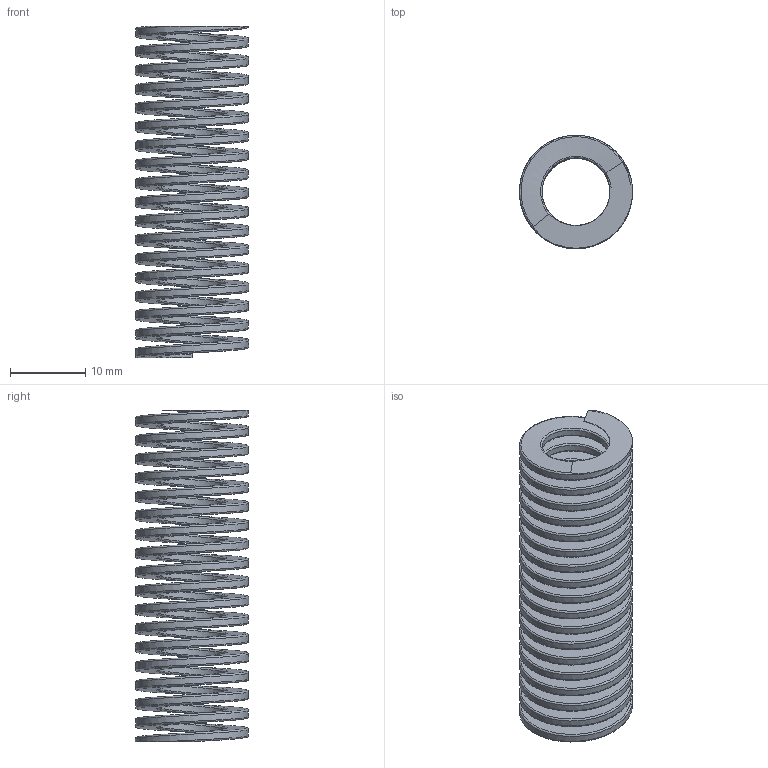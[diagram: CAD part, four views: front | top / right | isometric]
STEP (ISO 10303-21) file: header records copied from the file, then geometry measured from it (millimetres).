
FILE_DESCRIPTION(('CATIA V5 STEP Exchange','CAx-IF Rec.Pracs.--- Model Styling and Organization---1.5--- 2016-08-15','CAx-IF Rec.Pracs.---Supplemental Geometry---1.0---2011-11-01','CAx-IF Rec.Pracs.--- Composite Materials ---1.1---2010-07-15','CAx-IF Rec.Pracs.---External References---2.1---2005-01-19'),'2;1');
FILE_NAME('E:\WAT\Sprezarka\121_00_00_Tlocznik1\Tlocznik1_KPL\Tlocznik1_stp\241.14.16.064_skok20.stp','2023-08-01T08:49:43+00:00',('none'),('none'),'CATIA Version 5-6 Release 2022 SP3','CATIA V5 STEP AP214 v2','none');
FILE_SCHEMA(('AUTOMOTIVE_DESIGN { 1 0 10303 214 1 1 1 1 }'));
Length unit declared in the file: millimetre
Products named in the file (1): 241.14.16.064_skok20
Bounding box: 15 x 15 x 44 mm (x, y, z)
Volume: 2354.5 mm3; surface area: 5407.1 mm2
Topology: 1 solids, 1 shells, 11 faces, 27 edges, 18 vertices
Faces by surface type: bspline 8, plane 3
Entity records: 9327 total; most frequent: CARTESIAN_POINT 9114, ORIENTED_EDGE 54, EDGE_CURVE 27, VERTEX_POINT 18, B_SPLINE_CURVE_WITH_KNOTS 16, DIRECTION 13, ADVANCED_FACE 11, EDGE_LOOP 11
